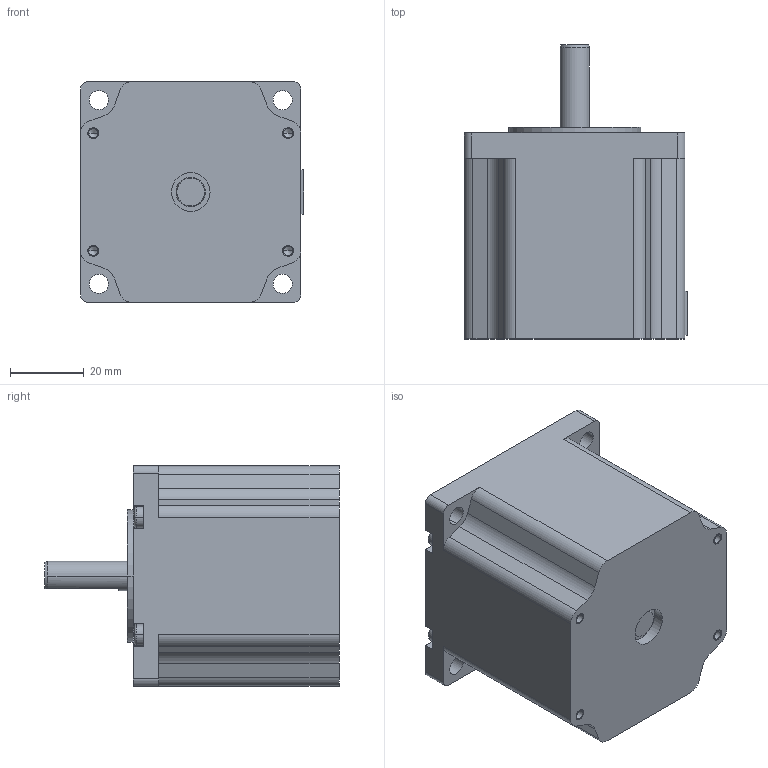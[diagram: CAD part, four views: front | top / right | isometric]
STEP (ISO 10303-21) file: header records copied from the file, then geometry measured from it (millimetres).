
FILE_DESCRIPTION((''),'2;1');
FILE_NAME('AM24HN1524-01','2025-07-07T17:59:00',('CZ28555'),(''),'CREO PARAMETRIC BY PTC INC, 2018100','CREO PARAMETRIC BY PTC INC, 2018100','');
FILE_SCHEMA(('CONFIG_CONTROL_DESIGN'));
Length unit declared in the file: millimetre
Products named in the file (1): AM24HN1524-01
Bounding box: 60.7 x 80 x 60 mm (x, y, z)
Volume: 183704.5 mm3; surface area: 21100.5 mm2
Topology: 1 solids, 5 shells, 202 faces, 533 edges, 348 vertices
Faces by surface type: plane 103, cylinder 80, cone 11, torus 8
Entity records: 6287 total; most frequent: DIRECTION 1118, CARTESIAN_POINT 1086, ORIENTED_EDGE 1034, EDGE_CURVE 525, AXIS2_PLACEMENT_3D 392, VERTEX_POINT 348, VECTOR 334, LINE 334
